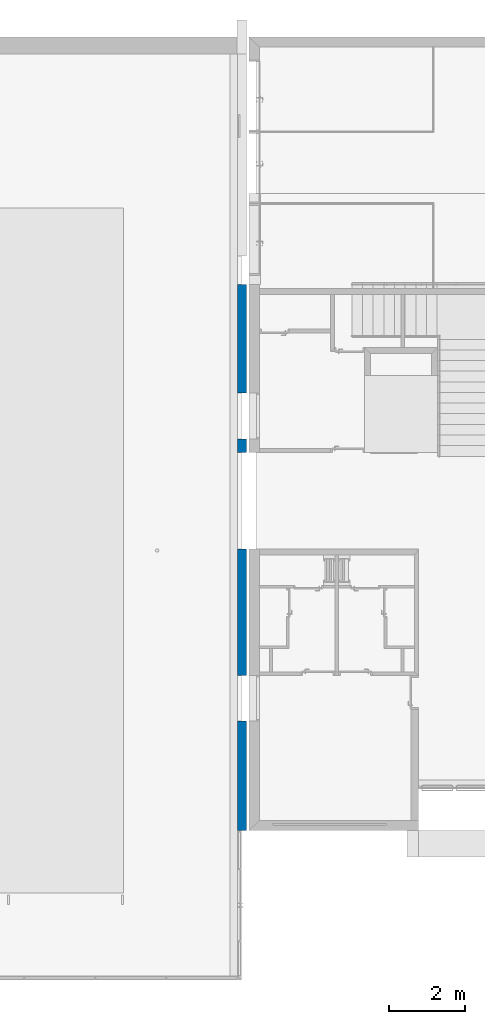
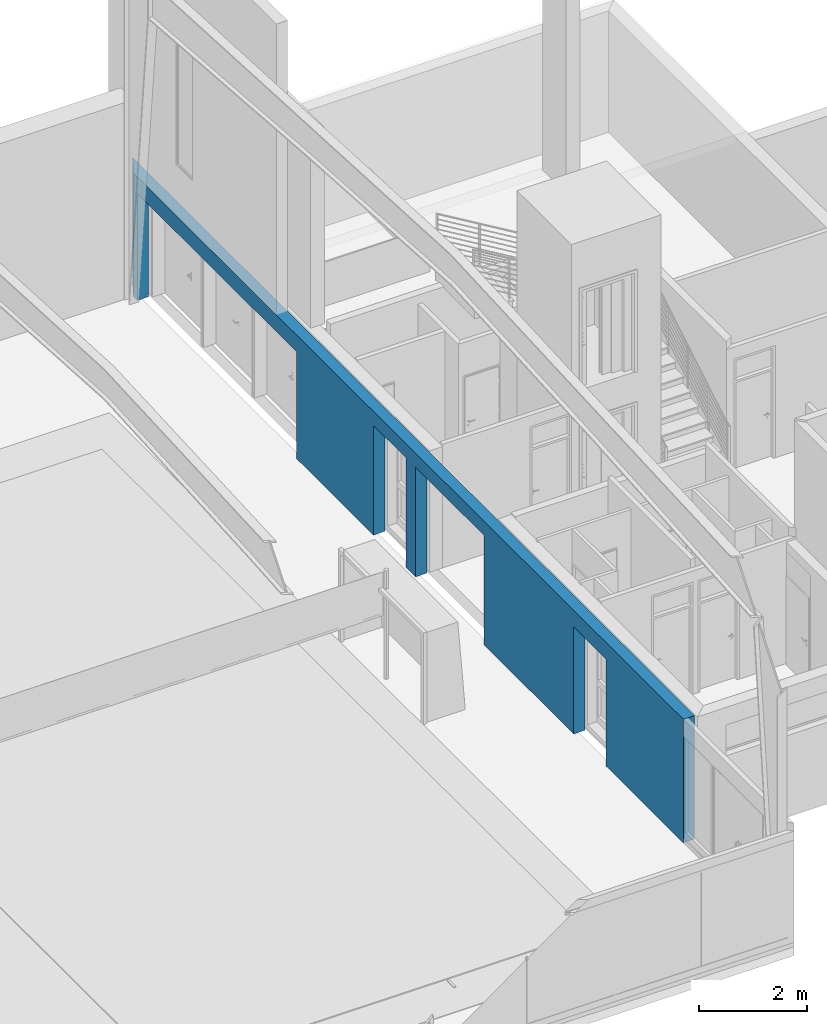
# One storey, part 9 of 45: 1 wall, 4 openings.
"""IFC2X3 building model written with IfcOpenShell, lengths in metres."""

from ifc_helpers import new_model, entity, si_unit, converted_unit, money_unit, direction, frame, origin_with_axes, place, context, subcontext, project, spatial, polyline, outline, extrude, material, layer, layer_set, layer_usage, type_object, element, save


model = new_model("IFC2X3")

# Units and contexts
model_context = context("Model", 3, precision=1e-05, world=origin_with_axes(), true_north=direction((0.0, 1.0)))
body_context = subcontext(model_context, "Body", "Model", "MODEL_VIEW")
ifc_project = project(units=[si_unit("LENGTHUNIT", "METRE"), si_unit("AREAUNIT", "SQUARE_METRE"), si_unit("VOLUMEUNIT", "CUBIC_METRE"), converted_unit("PLANEANGLEUNIT", "DEGREE", entity("IfcPlaneAngleMeasure", 0.0174532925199), si_unit("PLANEANGLEUNIT", "RADIAN"), dimensions=[0, 0, 0, 0, 0, 0, 0]), si_unit("SOLIDANGLEUNIT", "STERADIAN"), money_unit("EUR"), converted_unit("TIMEUNIT", "Year", entity("IfcTimeMeasure", 31556926.0), si_unit("TIMEUNIT", "SECOND"), dimensions=[0, 0, 0, 0, 0, 0, 0]), si_unit("MASSUNIT", "GRAM"), si_unit("THERMODYNAMICTEMPERATUREUNIT", "DEGREE_CELSIUS"), si_unit("LUMINOUSINTENSITYUNIT", "LUMEN")], contexts=[model_context])

# Site, building, storey
site_placement = place(None, origin_with_axes())
site = spatial("IfcSite", under=ifc_project, at=site_placement, Name="Site", CompositionType="ELEMENT")
building_placement = place(site_placement, origin_with_axes())
building = spatial("IfcBuilding", under=site, at=building_placement, Name="Bâtiment", CompositionType="ELEMENT")
storey_placement = place(building_placement, origin_with_axes())
storey = spatial("IfcBuildingStorey", under=building, at=storey_placement, Name="NIVEAU BAS GYMNASE", CompositionType="ELEMENT", Elevation=0.0)

# Wall, openings
ifc_material = material(Name="Solid Fill 2557160259")
ifc_layer = layer(ifc_material, 0.24, ventilated="UNKNOWN")
ifc_layer_set = layer_set([ifc_layer], Name="Solid Fill 2557160259 0.24")
ifc_layer_usage = layer_usage(ifc_layer_set, "AXIS2", "POSITIVE", 0.0)
wall_type = type_object("IfcWallType", Name="Solid Fill 2557160259 240", PredefinedType="NOTDEFINED")
wall_placement = place(storey_placement, frame((45.418457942, 5.86881571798, 0.0), z_axis=(0.0, 0.0, 1.0), x_axis=(0.0, 1.0, 0.0)))
wall = element("IfcWallStandardCase", 1, at=wall_placement, inside=storey, type_object=wall_type, material=ifc_layer_usage, Name="Mur-002", context=body_context, shape_type="SweptSolid", body=[
    extrude(outline(polyline([(0.0, 0.0), (20.8703001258, 0.0), (20.4203001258, 0.24), (0.0, 0.24), (0.0, 0.0)])), origin_with_axes(), (0.0, 0.0, 1.0), 2.8),
])
opening_1_placement = place(wall_placement, frame((8.67, 0.0, 0.0), z_axis=(0.0, 0.0, 1.0), x_axis=(1.0, 0.0, 0.0)))
element("IfcOpeningElement", 2, at=opening_1_placement, cuts=wall, Name="Por-001", context=body_context, shape_type="SweptSolid", body=[
    extrude(outline(polyline([(-1.27, 2.48), (-1.27, 0.0), (1.27, 0.0), (1.27, 2.48), (-1.27, 2.48)])), frame((0.0, 0.0, 0.0), z_axis=(0.0, -1.0, 0.0), x_axis=(1.0, 0.0, 0.0)), (0.0, 0.0, 1.0), 0.24),
    extrude(outline(polyline([(-1.27, 0.0), (-1.27, -2.48), (1.27, -2.48), (1.27, 0.0), (-1.27, 0.0)])), frame((0.0, 0.0, 0.0), z_axis=(0.0, 1.0, 0.0), x_axis=(1.0, 0.0, 0.0)), (0.0, 0.0, 1.0), 0.24),
])
opening_2_placement = place(wall_placement, frame((3.47, 0.0, 0.0), z_axis=(0.0, 0.0, 1.0), x_axis=(1.0, 0.0, 0.0)))
element("IfcOpeningElement", 3, at=opening_2_placement, cuts=wall, Name="Por-001", context=body_context, shape_type="SweptSolid", body=[
    extrude(outline(polyline([(-0.6, 2.42), (-0.6, 0.0), (0.6, 0.0), (0.6, 2.42), (-0.6, 2.42)])), frame((0.0, 0.0, 0.0), z_axis=(0.0, -1.0, 0.0), x_axis=(1.0, 0.0, 0.0)), (0.0, 0.0, 1.0), 0.24),
    extrude(outline(polyline([(-0.6, 0.0), (-0.6, -2.42), (0.6, -2.42), (0.6, 0.0), (-0.6, 0.0)])), frame((0.0, 0.0, 0.0), z_axis=(0.0, 1.0, 0.0), x_axis=(1.0, 0.0, 0.0)), (0.0, 0.0, 1.0), 0.24),
])
opening_3_placement = place(wall_placement, frame((10.9011451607, 0.0, 0.0), z_axis=(0.0, 0.0, 1.0), x_axis=(1.0, 0.0, 0.0)))
element("IfcOpeningElement", 4, at=opening_3_placement, cuts=wall, Name="Por-001", context=body_context, shape_type="SweptSolid", body=[
    extrude(outline(polyline([(-0.6, 2.48), (-0.6, 0.0), (0.6, 0.0), (0.6, 2.48), (-0.6, 2.48)])), frame((0.0, 0.0, 0.0), z_axis=(0.0, -1.0, 0.0), x_axis=(1.0, 0.0, 0.0)), (0.0, 0.0, 1.0), 0.24),
    extrude(outline(polyline([(-0.6, 0.0), (-0.6, -2.48), (0.6, -2.48), (0.6, 0.0), (-0.6, 0.0)])), frame((0.0, 0.0, 0.0), z_axis=(0.0, 1.0, 0.0), x_axis=(1.0, 0.0, 0.0)), (0.0, 0.0, 1.0), 0.24),
])
opening_4_placement = place(wall_placement, frame((17.3150750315, 0.0, 0.0), z_axis=(0.0, 0.0, 1.0), x_axis=(1.0, 0.0, 0.0)))
element("IfcOpeningElement", 5, at=opening_4_placement, cuts=wall, Name="Por-001", context=body_context, shape_type="SweptSolid", body=[
    extrude(outline(polyline([(-2.955075, 2.42059200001), (-2.955075, 0.0), (2.955075, 0.0), (2.955075, 2.42059200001), (-2.955075, 2.42059200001)])), frame((0.0, 0.0, 0.0), z_axis=(0.0, -1.0, 0.0), x_axis=(1.0, 0.0, 0.0)), (0.0, 0.0, 1.0), 0.24),
    extrude(outline(polyline([(-2.955075, 0.0), (-2.955075, -2.42059200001), (2.955075, -2.42059200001), (2.955075, 0.0), (-2.955075, 0.0)])), frame((0.0, 0.0, 0.0), z_axis=(0.0, 1.0, 0.0), x_axis=(1.0, 0.0, 0.0)), (0.0, 0.0, 1.0), 0.24),
])

save(model, "model.ifc")
